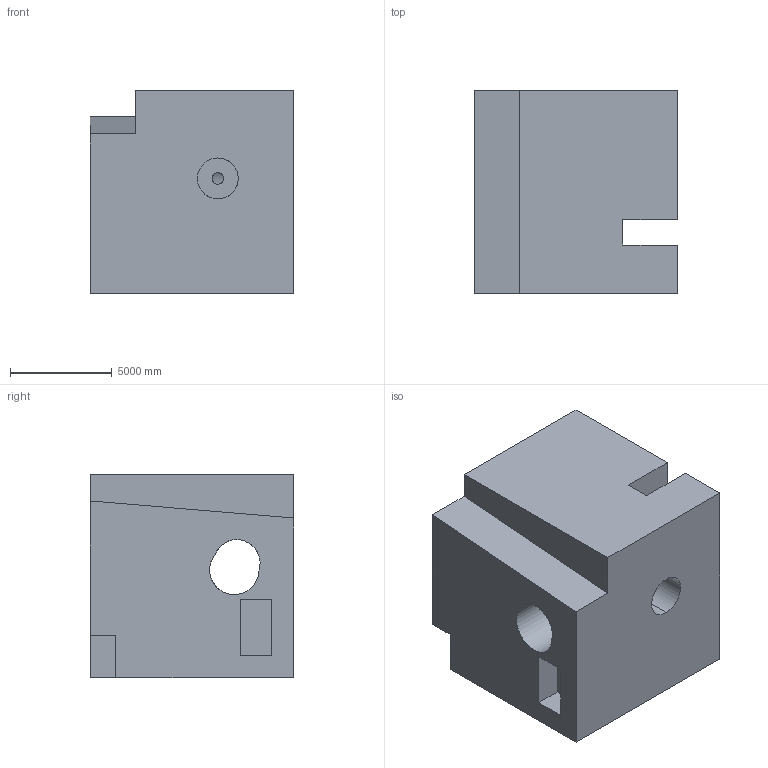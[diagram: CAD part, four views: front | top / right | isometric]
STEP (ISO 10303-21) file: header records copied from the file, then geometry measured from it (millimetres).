
FILE_DESCRIPTION (( 'STEP AP203' ), '1' );
FILE_NAME ('1631.STEP', '2022-08-19T11:11:34', ( 'user' ), ( '' ), 'SwSTEP 2.0', 'SolidWorks 2021', '' );
FILE_SCHEMA (( 'CONFIG_CONTROL_DESIGN' ));
Length unit declared in the file: centimetre
Products named in the file (1): 1631
Bounding box: 10000 x 10000 x 10000 mm (x, y, z)
Volume: 853292880754.3 mm3; surface area: 745309308.3 mm2
Topology: 1 solids, 1 shells, 33 faces, 93 edges, 62 vertices
Faces by surface type: plane 24, cylinder 9
Entity records: 1968 total; most frequent: CARTESIAN_POINT 1031, ORIENTED_EDGE 186, DIRECTION 165, EDGE_CURVE 93, LINE 69, VECTOR 69, VERTEX_POINT 62, AXIS2_PLACEMENT_3D 48
